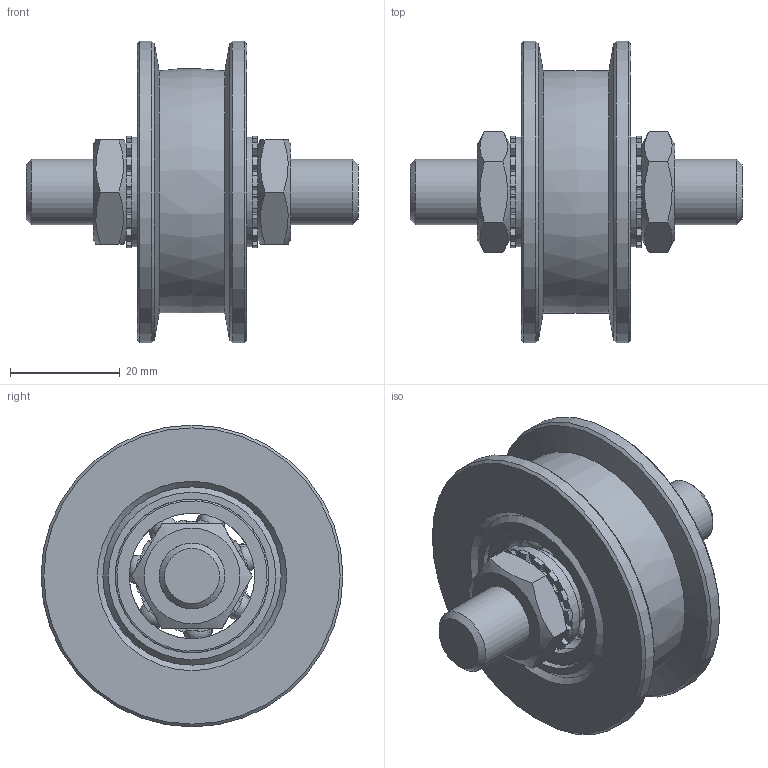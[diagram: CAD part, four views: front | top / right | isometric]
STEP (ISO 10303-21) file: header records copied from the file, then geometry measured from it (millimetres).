
FILE_DESCRIPTION(/* description */ ('Rolle Ø55'),/* implementation_level */ '2;1');
FILE_NAME(/* name */ 'Q:\sge-ma\Produktmanagement-STB\STB\Workspace\stp\010337632.stp',/* time_stamp */ '2016-07-22T07:42:58+02:00',/* author */ ('avschreier'),/* organization */ (''),/* preprocessor_version */ 'ST-DEVELOPER v16.1',/* originating_system */ 'Autodesk Inventor 2016',/* authorisation */ '');
FILE_SCHEMA (('CONFIG_CONTROL_DESIGN'));
Length unit declared in the file: millimetre
Products named in the file (8): 337000190; 337000187; 337000330; DIN_625-6001_en; DIN_433-13_en; DIN_6798-A_13_en; DIN_EN_ISO_4035-M12_en; 010337632
Assembly tree (11 placements, depth 2):
  010337632
    337000190
    337000187
    337000330
    DIN_625-6001_en  x2
    DIN_433-13_en  x2
    DIN_6798-A_13_en  x2
    DIN_EN_ISO_4035-M12_en  x2
Bounding box: 60.5 x 55 x 55 mm (x, y, z)
Volume: 40759.2 mm3; surface area: 23259.2 mm2
Topology: 11 solids, 11 shells, 333 faces, 969 edges, 638 vertices
Faces by surface type: cylinder 156, plane 106, torus 36, cone 20, sphere 14, bspline 1
Full cylindrical faces by diameter (mm): 10.106 x2, 12 x3, 12.1 x1, 13 x4, 17 x1, 17.12 x4, 20 x2, 22.88 x4, 23.5 x1, 28 x4, 55 x2
Entity records: 6442 total; most frequent: CARTESIAN_POINT 1758, DIRECTION 990, ORIENTED_EDGE 894, EDGE_CURVE 447, AXIS2_PLACEMENT_3D 412, VERTEX_POINT 316, EDGE_LOOP 245, CIRCLE 212
